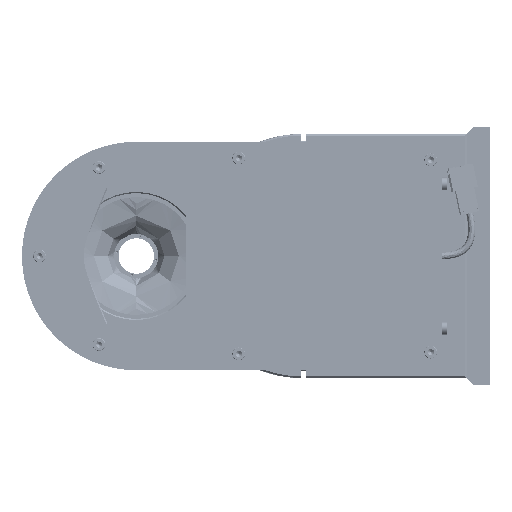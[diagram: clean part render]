
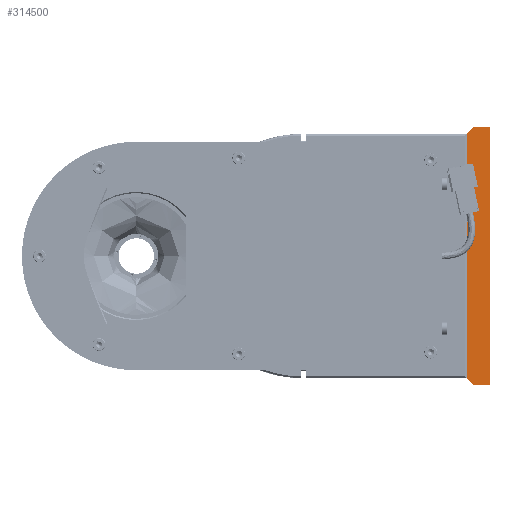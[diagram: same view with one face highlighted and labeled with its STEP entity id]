
A CAD part, front view. The second image highlights one B-rep face of the part: STEP entity #314500.
In plain terms, the highlighted free-form (B-spline) face has degree [1, 1] with [2, 2] control points.
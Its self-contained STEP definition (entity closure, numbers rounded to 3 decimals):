
#314500 = ADVANCED_FACE('',(#314501),#314515,.T.);
#314501 = FACE_BOUND('',#314502,.T.);
#314502 = EDGE_LOOP('',(#314503,#314525,#314540,#314555,#314570,#314585)
  );
#314503 = ORIENTED_EDGE('',*,*,#314504,.T.);
#314504 = EDGE_CURVE('',#314505,#314507,#314509,.T.);
#314505 = VERTEX_POINT('',#314506);
#314506 = CARTESIAN_POINT('',(0.,-73.527,55.5));
#314507 = VERTEX_POINT('',#314508);
#314508 = CARTESIAN_POINT('',(0.,-73.527,-55.5));
#314509 = SURFACE_CURVE('',#314510,(#314514),.PCURVE_S1.);
#314510 = LINE('',#314511,#314512);
#314511 = CARTESIAN_POINT('',(0.,-73.527,55.5));
#314512 = VECTOR('',#314513,1.);
#314513 = DIRECTION('',(0.,0.,-1.));
#314514 = PCURVE('',#314515,#314520);
#314515 = B_SPLINE_SURFACE_WITH_KNOTS('',1,1,(
    (#314516,#314517)
    ,(#314518,#314519
    )),.UNSPECIFIED.,.F.,.F.,.F.,(2,2),(2,2),(0.,1.),(0.,1.),
  .PIECEWISE_BEZIER_KNOTS.);
#314516 = CARTESIAN_POINT('',(0.,-73.527,55.5));
#314517 = CARTESIAN_POINT('',(0.,-63.527,55.5));
#314518 = CARTESIAN_POINT('',(0.,-73.527,-55.5));
#314519 = CARTESIAN_POINT('',(0.,-63.527,-55.5));
#314520 = DEFINITIONAL_REPRESENTATION('',(#314521),#314524);
#314521 = B_SPLINE_CURVE_WITH_KNOTS('',1,(#314522,#314523),
  .UNSPECIFIED.,.F.,.F.,(2,2),(0.,111.),.PIECEWISE_BEZIER_KNOTS.);
#314522 = CARTESIAN_POINT('',(0.,0.));
#314523 = CARTESIAN_POINT('',(1.,0.));
#314524 = ( GEOMETRIC_REPRESENTATION_CONTEXT(2) 
PARAMETRIC_REPRESENTATION_CONTEXT() REPRESENTATION_CONTEXT('',''
  ) );
#314525 = ORIENTED_EDGE('',*,*,#314526,.T.);
#314526 = EDGE_CURVE('',#314507,#314527,#314529,.T.);
#314527 = VERTEX_POINT('',#314528);
#314528 = CARTESIAN_POINT('',(0.,-66.527,-55.5));
#314529 = SURFACE_CURVE('',#314530,(#314534),.PCURVE_S1.);
#314530 = LINE('',#314531,#314532);
#314531 = CARTESIAN_POINT('',(0.,-73.527,-55.5));
#314532 = VECTOR('',#314533,1.);
#314533 = DIRECTION('',(0.,1.,0.));
#314534 = PCURVE('',#314515,#314535);
#314535 = DEFINITIONAL_REPRESENTATION('',(#314536),#314539);
#314536 = B_SPLINE_CURVE_WITH_KNOTS('',1,(#314537,#314538),
  .UNSPECIFIED.,.F.,.F.,(2,2),(0.,7.),.PIECEWISE_BEZIER_KNOTS.);
#314537 = CARTESIAN_POINT('',(1.,0.));
#314538 = CARTESIAN_POINT('',(1.,0.7));
#314539 = ( GEOMETRIC_REPRESENTATION_CONTEXT(2) 
PARAMETRIC_REPRESENTATION_CONTEXT() REPRESENTATION_CONTEXT('',''
  ) );
#314540 = ORIENTED_EDGE('',*,*,#314541,.T.);
#314541 = EDGE_CURVE('',#314527,#314542,#314544,.T.);
#314542 = VERTEX_POINT('',#314543);
#314543 = CARTESIAN_POINT('',(0.,-63.527,-52.5));
#314544 = SURFACE_CURVE('',#314545,(#314549),.PCURVE_S1.);
#314545 = LINE('',#314546,#314547);
#314546 = CARTESIAN_POINT('',(0.,-66.527,-55.5));
#314547 = VECTOR('',#314548,1.);
#314548 = DIRECTION('',(0.,0.707,0.707));
#314549 = PCURVE('',#314515,#314550);
#314550 = DEFINITIONAL_REPRESENTATION('',(#314551),#314554);
#314551 = B_SPLINE_CURVE_WITH_KNOTS('',1,(#314552,#314553),
  .UNSPECIFIED.,.F.,.F.,(2,2),(0.,4.243),
  .PIECEWISE_BEZIER_KNOTS.);
#314552 = CARTESIAN_POINT('',(1.,0.7));
#314553 = CARTESIAN_POINT('',(0.973,1.));
#314554 = ( GEOMETRIC_REPRESENTATION_CONTEXT(2) 
PARAMETRIC_REPRESENTATION_CONTEXT() REPRESENTATION_CONTEXT('',''
  ) );
#314555 = ORIENTED_EDGE('',*,*,#314556,.T.);
#314556 = EDGE_CURVE('',#314542,#314557,#314559,.T.);
#314557 = VERTEX_POINT('',#314558);
#314558 = CARTESIAN_POINT('',(0.,-63.527,52.5));
#314559 = SURFACE_CURVE('',#314560,(#314564),.PCURVE_S1.);
#314560 = LINE('',#314561,#314562);
#314561 = CARTESIAN_POINT('',(0.,-63.527,-52.5));
#314562 = VECTOR('',#314563,1.);
#314563 = DIRECTION('',(0.,0.,1.));
#314564 = PCURVE('',#314515,#314565);
#314565 = DEFINITIONAL_REPRESENTATION('',(#314566),#314569);
#314566 = B_SPLINE_CURVE_WITH_KNOTS('',1,(#314567,#314568),
  .UNSPECIFIED.,.F.,.F.,(2,2),(0.,105.),.PIECEWISE_BEZIER_KNOTS.);
#314567 = CARTESIAN_POINT('',(0.973,1.));
#314568 = CARTESIAN_POINT('',(0.027,1.));
#314569 = ( GEOMETRIC_REPRESENTATION_CONTEXT(2) 
PARAMETRIC_REPRESENTATION_CONTEXT() REPRESENTATION_CONTEXT('',''
  ) );
#314570 = ORIENTED_EDGE('',*,*,#314571,.T.);
#314571 = EDGE_CURVE('',#314557,#314572,#314574,.T.);
#314572 = VERTEX_POINT('',#314573);
#314573 = CARTESIAN_POINT('',(0.,-66.527,55.5));
#314574 = SURFACE_CURVE('',#314575,(#314579),.PCURVE_S1.);
#314575 = LINE('',#314576,#314577);
#314576 = CARTESIAN_POINT('',(0.,-63.527,52.5));
#314577 = VECTOR('',#314578,1.);
#314578 = DIRECTION('',(0.,-0.707,0.707));
#314579 = PCURVE('',#314515,#314580);
#314580 = DEFINITIONAL_REPRESENTATION('',(#314581),#314584);
#314581 = B_SPLINE_CURVE_WITH_KNOTS('',1,(#314582,#314583),
  .UNSPECIFIED.,.F.,.F.,(2,2),(0.,4.243),
  .PIECEWISE_BEZIER_KNOTS.);
#314582 = CARTESIAN_POINT('',(0.027,1.));
#314583 = CARTESIAN_POINT('',(0.,0.7));
#314584 = ( GEOMETRIC_REPRESENTATION_CONTEXT(2) 
PARAMETRIC_REPRESENTATION_CONTEXT() REPRESENTATION_CONTEXT('',''
  ) );
#314585 = ORIENTED_EDGE('',*,*,#314586,.T.);
#314586 = EDGE_CURVE('',#314572,#314505,#314587,.T.);
#314587 = SURFACE_CURVE('',#314588,(#314592),.PCURVE_S1.);
#314588 = LINE('',#314589,#314590);
#314589 = CARTESIAN_POINT('',(0.,-66.527,55.5));
#314590 = VECTOR('',#314591,1.);
#314591 = DIRECTION('',(0.,-1.,0.));
#314592 = PCURVE('',#314515,#314593);
#314593 = DEFINITIONAL_REPRESENTATION('',(#314594),#314597);
#314594 = B_SPLINE_CURVE_WITH_KNOTS('',1,(#314595,#314596),
  .UNSPECIFIED.,.F.,.F.,(2,2),(0.,7.),.PIECEWISE_BEZIER_KNOTS.);
#314595 = CARTESIAN_POINT('',(0.,0.7));
#314596 = CARTESIAN_POINT('',(0.,0.));
#314597 = ( GEOMETRIC_REPRESENTATION_CONTEXT(2) 
PARAMETRIC_REPRESENTATION_CONTEXT() REPRESENTATION_CONTEXT('',''
  ) );
